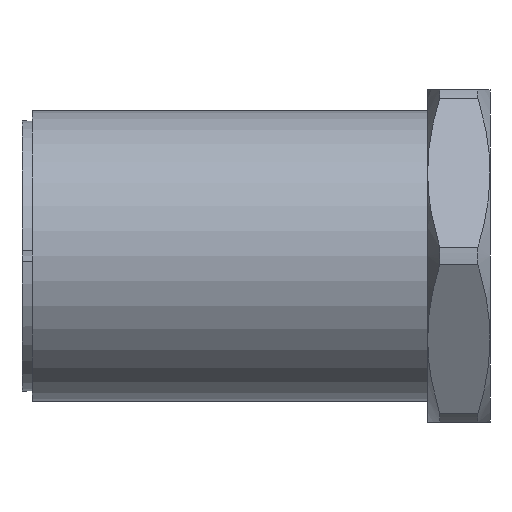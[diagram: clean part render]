
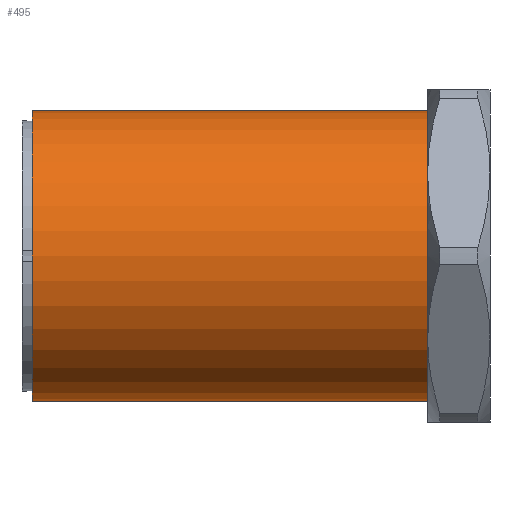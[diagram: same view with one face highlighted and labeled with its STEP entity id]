
A CAD part, front view. The second image highlights one B-rep face of the part: STEP entity #495.
In plain terms, the highlighted cylindrical face has radius 7 mm (diameter 14 mm), a partial arc.
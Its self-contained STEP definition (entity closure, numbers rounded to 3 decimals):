
#342 = VERTEX_POINT ( 'NONE', #1571 ) ;
#346 = VERTEX_POINT ( 'NONE', #1591 ) ;
#348 = VERTEX_POINT ( 'NONE', #1515 ) ;
#349 = VERTEX_POINT ( 'NONE', #1549 ) ;
#421 = CYLINDRICAL_SURFACE ( 'NONE', #1415, 7. ) ;
#428 = FACE_OUTER_BOUND ( 'NONE', #1238, .T. ) ;
#495 = ADVANCED_FACE ( 'NONE', ( #428 ), #421, .T. ) ;
#640 = LINE ( 'NONE', #988, #646 ) ;
#641 = CIRCLE ( 'NONE', #1377, 7. ) ;
#642 = VECTOR ( 'NONE', #997, 1000. ) ;
#644 = CIRCLE ( 'NONE', #1375, 7. ) ;
#646 = VECTOR ( 'NONE', #989, 1000. ) ;
#648 = LINE ( 'NONE', #996, #642 ) ;
#814 = DIRECTION ( 'NONE',  ( -1., 0., 0. ) ) ;
#815 = CARTESIAN_POINT ( 'NONE',  ( 0., 0., 0. ) ) ;
#817 = DIRECTION ( 'NONE',  ( 0., 0., 1. ) ) ;
#970 = CARTESIAN_POINT ( 'NONE',  ( 19., 0., 0. ) ) ;
#978 = DIRECTION ( 'NONE',  ( -1., 0., 0. ) ) ;
#979 = DIRECTION ( 'NONE',  ( 0., 0., 1. ) ) ;
#987 = CARTESIAN_POINT ( 'NONE',  ( 0., 0., 0. ) ) ;
#988 = CARTESIAN_POINT ( 'NONE',  ( 0., 0., -7. ) ) ;
#989 = DIRECTION ( 'NONE',  ( -1., 0., 0. ) ) ;
#996 = CARTESIAN_POINT ( 'NONE',  ( 0., 0., 7. ) ) ;
#997 = DIRECTION ( 'NONE',  ( -1., 0., 0. ) ) ;
#999 = DIRECTION ( 'NONE',  ( -1., 0., 0. ) ) ;
#1000 = DIRECTION ( 'NONE',  ( 0., 0., 1. ) ) ;
#1194 = ORIENTED_EDGE ( 'NONE', *, *, #1495, .F. ) ;
#1204 = ORIENTED_EDGE ( 'NONE', *, *, #1498, .T. ) ;
#1206 = ORIENTED_EDGE ( 'NONE', *, *, #1491, .T. ) ;
#1214 = ORIENTED_EDGE ( 'NONE', *, *, #1499, .F. ) ;
#1238 = EDGE_LOOP ( 'NONE', ( #1194, #1206, #1204, #1214 ) ) ;
#1375 = AXIS2_PLACEMENT_3D ( 'NONE', #987, #999, #1000 ) ;
#1377 = AXIS2_PLACEMENT_3D ( 'NONE', #970, #978, #979 ) ;
#1415 = AXIS2_PLACEMENT_3D ( 'NONE', #815, #814, #817 ) ;
#1491 = EDGE_CURVE ( 'NONE', #349, #346, #641, .T. ) ;
#1495 = EDGE_CURVE ( 'NONE', #349, #348, #640, .T. ) ;
#1498 = EDGE_CURVE ( 'NONE', #346, #342, #648, .T. ) ;
#1499 = EDGE_CURVE ( 'NONE', #348, #342, #644, .T. ) ;
#1515 = CARTESIAN_POINT ( 'NONE',  ( 0., 0., -7. ) ) ;
#1549 = CARTESIAN_POINT ( 'NONE',  ( 19., 0., -7. ) ) ;
#1571 = CARTESIAN_POINT ( 'NONE',  ( 0., 0., 7. ) ) ;
#1591 = CARTESIAN_POINT ( 'NONE',  ( 19., 0., 7. ) ) ;
